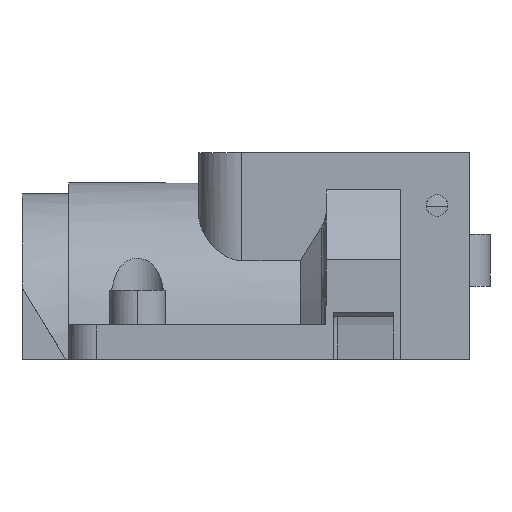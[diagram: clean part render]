
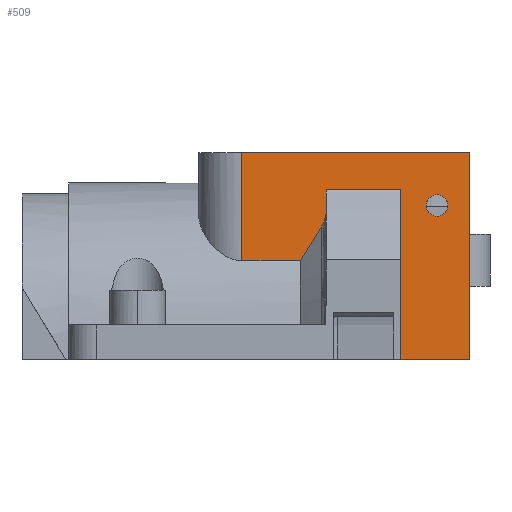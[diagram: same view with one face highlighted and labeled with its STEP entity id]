
A CAD part, left-side view. The second image highlights one B-rep face of the part: STEP entity #509.
In plain terms, the highlighted planar face has unit normal (-1, 0, 0).
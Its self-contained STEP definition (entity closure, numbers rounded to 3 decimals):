
#78 = ORIENTED_EDGE ( 'NONE', *, *, #3212, .F. ) ;
#104 = VECTOR ( 'NONE', #2061, 1000. ) ;
#117 = ORIENTED_EDGE ( 'NONE', *, *, #1319, .F. ) ;
#120 = PLANE ( 'NONE',  #3076 ) ;
#132 = EDGE_CURVE ( 'NONE', #1787, #3353, #4075, .T. ) ;
#133 = VERTEX_POINT ( 'NONE', #3978 ) ;
#153 = CARTESIAN_POINT ( 'NONE',  ( -1.701, -91.512, 24. ) ) ;
#194 = CARTESIAN_POINT ( 'NONE',  ( -1.701, -74.326, 15.364 ) ) ;
#240 = ORIENTED_EDGE ( 'NONE', *, *, #2635, .T. ) ;
#330 = CARTESIAN_POINT ( 'NONE',  ( -1.701, -74.912, 17.403 ) ) ;
#337 = EDGE_CURVE ( 'NONE', #2114, #3261, #1568, .T. ) ;
#416 = CARTESIAN_POINT ( 'NONE',  ( -1.701, -87.762, 19.1 ) ) ;
#435 = VECTOR ( 'NONE', #3085, 1000. ) ;
#509 = ADVANCED_FACE ( 'NONE', ( #2129, #3358 ), #120, .F. ) ;
#513 = DIRECTION ( 'NONE',  ( 0., 0., -1. ) ) ;
#518 = DIRECTION ( 'NONE',  ( -1., 0., 0. ) ) ;
#566 = CARTESIAN_POINT ( 'NONE',  ( -1.701, -140.791, 11.456 ) ) ;
#589 = ORIENTED_EDGE ( 'NONE', *, *, #4070, .T. ) ;
#623 = VECTOR ( 'NONE', #1621, 1000. ) ;
#653 = CARTESIAN_POINT ( 'NONE',  ( -1.701, -71.912, 11.456 ) ) ;
#670 = DIRECTION ( 'NONE',  ( 0., -1., 0. ) ) ;
#683 = CARTESIAN_POINT ( 'NONE',  ( -1.701, -74.815, 16.513 ) ) ;
#718 = AXIS2_PLACEMENT_3D ( 'NONE', #4498, #1291, #3183 ) ;
#729 = VERTEX_POINT ( 'NONE', #2561 ) ;
#758 = B_SPLINE_CURVE_WITH_KNOTS ( 'NONE', 3,
 ( #4517, #4134, #2857, #683, #2459, #1404, #2488, #330 ),
 .UNSPECIFIED., .F., .F.,
 ( 4, 2, 2, 4 ),
 ( 0., 0.001, 0.002, 0.003 ),
 .UNSPECIFIED. ) ;
#796 = CARTESIAN_POINT ( 'NONE',  ( -1.701, -65.108, 11.456 ) ) ;
#958 = CARTESIAN_POINT ( 'NONE',  ( -1.701, -74.912, -0.002 ) ) ;
#983 = VERTEX_POINT ( 'NONE', #3689 ) ;
#1005 = ORIENTED_EDGE ( 'NONE', *, *, #1116, .F. ) ;
#1035 = VECTOR ( 'NONE', #1040, 1000. ) ;
#1040 = DIRECTION ( 'NONE',  ( 0., 0., -1. ) ) ;
#1048 = CARTESIAN_POINT ( 'NONE',  ( -1.701, -87.762, 16.6 ) ) ;
#1101 = CARTESIAN_POINT ( 'NONE',  ( -1.701, -39.6, 19.672 ) ) ;
#1116 = EDGE_CURVE ( 'NONE', #4204, #3651, #2801, .T. ) ;
#1174 = CARTESIAN_POINT ( 'NONE',  ( -1.701, -87.762, 17.85 ) ) ;
#1186 = ORIENTED_EDGE ( 'NONE', *, *, #2235, .T. ) ;
#1224 = EDGE_CURVE ( 'NONE', #2095, #2208, #4456, .T. ) ;
#1265 = CIRCLE ( 'NONE', #718, 1.25 ) ;
#1291 = DIRECTION ( 'NONE',  ( -1., 0., 0. ) ) ;
#1319 = EDGE_CURVE ( 'NONE', #983, #2114, #2240, .T. ) ;
#1386 = CARTESIAN_POINT ( 'NONE',  ( -1.701, -91.512, 0. ) ) ;
#1404 = CARTESIAN_POINT ( 'NONE',  ( -1.701, -74.9, 17.043 ) ) ;
#1521 = DIRECTION ( 'NONE',  ( 1., 0., 0. ) ) ;
#1544 = VECTOR ( 'NONE', #4049, 1000. ) ;
#1568 = LINE ( 'NONE', #958, #2539 ) ;
#1597 = ORIENTED_EDGE ( 'NONE', *, *, #132, .F. ) ;
#1621 = DIRECTION ( 'NONE',  ( 0., 0., 1. ) ) ;
#1684 = EDGE_LOOP ( 'NONE', ( #1597, #78 ) ) ;
#1716 = CARTESIAN_POINT ( 'NONE',  ( -1.701, -71.912, 11.456 ) ) ;
#1752 = ORIENTED_EDGE ( 'NONE', *, *, #2950, .T. ) ;
#1786 = CARTESIAN_POINT ( 'NONE',  ( -1.701, -74.912, 19.672 ) ) ;
#1787 = VERTEX_POINT ( 'NONE', #416 ) ;
#1914 = CARTESIAN_POINT ( 'NONE',  ( -1.701, -72.659, 12.792 ) ) ;
#1991 = CARTESIAN_POINT ( 'NONE',  ( -1.701, -85.712, 24. ) ) ;
#2003 = LINE ( 'NONE', #2090, #1035 ) ;
#2051 = EDGE_CURVE ( 'NONE', #729, #3261, #758, .T. ) ;
#2061 = DIRECTION ( 'NONE',  ( 0., -1., 0. ) ) ;
#2090 = CARTESIAN_POINT ( 'NONE',  ( -1.701, -83.512, 28.2 ) ) ;
#2095 = VERTEX_POINT ( 'NONE', #653 ) ;
#2114 = VERTEX_POINT ( 'NONE', #1786 ) ;
#2129 = FACE_OUTER_BOUND ( 'NONE', #4257, .T. ) ;
#2208 = VERTEX_POINT ( 'NONE', #2977 ) ;
#2235 = EDGE_CURVE ( 'NONE', #133, #4450, #2793, .T. ) ;
#2240 = LINE ( 'NONE', #1101, #2688 ) ;
#2310 = CARTESIAN_POINT ( 'NONE',  ( -1.701, -73.472, 14.09 ) ) ;
#2368 = CARTESIAN_POINT ( 'NONE',  ( -1.701, -74.912, 17.403 ) ) ;
#2459 = CARTESIAN_POINT ( 'NONE',  ( -1.701, -74.851, 16.688 ) ) ;
#2460 = DIRECTION ( 'NONE',  ( 0., 0., -1. ) ) ;
#2488 = CARTESIAN_POINT ( 'NONE',  ( -1.701, -74.912, 17.224 ) ) ;
#2539 = VECTOR ( 'NONE', #2460, 1000. ) ;
#2561 = CARTESIAN_POINT ( 'NONE',  ( -1.701, -74.326, 15.364 ) ) ;
#2585 = B_SPLINE_CURVE_WITH_KNOTS ( 'NONE', 3,
 ( #1716, #1914, #2310, #194 ),
 .UNSPECIFIED., .F., .F.,
 ( 4, 4 ),
 ( 0.02, 0.025 ),
 .UNSPECIFIED. ) ;
#2586 = CARTESIAN_POINT ( 'NONE',  ( -1.701, -83.512, 28.2 ) ) ;
#2635 = EDGE_CURVE ( 'NONE', #983, #133, #2003, .T. ) ;
#2688 = VECTOR ( 'NONE', #3275, 1000. ) ;
#2690 = CARTESIAN_POINT ( 'NONE',  ( -1.701, -65.108, 24. ) ) ;
#2729 = CARTESIAN_POINT ( 'NONE',  ( -1.701, -91.512, 0. ) ) ;
#2793 = LINE ( 'NONE', #3525, #3451 ) ;
#2801 = LINE ( 'NONE', #1991, #104 ) ;
#2857 = CARTESIAN_POINT ( 'NONE',  ( -1.701, -74.671, 15.997 ) ) ;
#2950 = EDGE_CURVE ( 'NONE', #2095, #729, #2585, .T. ) ;
#2964 = AXIS2_PLACEMENT_3D ( 'NONE', #1174, #518, #2996 ) ;
#2977 = CARTESIAN_POINT ( 'NONE',  ( -1.701, -65.108, 11.456 ) ) ;
#2996 = DIRECTION ( 'NONE',  ( 0., 0., 1. ) ) ;
#3076 = AXIS2_PLACEMENT_3D ( 'NONE', #2586, #1521, #513 ) ;
#3085 = DIRECTION ( 'NONE',  ( 0., 1., 0. ) ) ;
#3155 = ORIENTED_EDGE ( 'NONE', *, *, #3712, .T. ) ;
#3183 = DIRECTION ( 'NONE',  ( 0., 0., 1. ) ) ;
#3212 = EDGE_CURVE ( 'NONE', #3353, #1787, #1265, .T. ) ;
#3261 = VERTEX_POINT ( 'NONE', #2368 ) ;
#3275 = DIRECTION ( 'NONE',  ( 0., 1., 0. ) ) ;
#3337 = LINE ( 'NONE', #2729, #623 ) ;
#3353 = VERTEX_POINT ( 'NONE', #1048 ) ;
#3358 = FACE_BOUND ( 'NONE', #1684, .T. ) ;
#3451 = VECTOR ( 'NONE', #670, 1000. ) ;
#3492 = LINE ( 'NONE', #796, #1544 ) ;
#3525 = CARTESIAN_POINT ( 'NONE',  ( -1.701, -83.512, 0. ) ) ;
#3651 = VERTEX_POINT ( 'NONE', #153 ) ;
#3661 = ORIENTED_EDGE ( 'NONE', *, *, #2051, .T. ) ;
#3689 = CARTESIAN_POINT ( 'NONE',  ( -1.701, -83.512, 19.672 ) ) ;
#3712 = EDGE_CURVE ( 'NONE', #4450, #3651, #3337, .T. ) ;
#3810 = ORIENTED_EDGE ( 'NONE', *, *, #337, .F. ) ;
#3859 = ORIENTED_EDGE ( 'NONE', *, *, #1224, .F. ) ;
#3978 = CARTESIAN_POINT ( 'NONE',  ( -1.701, -83.512, 0. ) ) ;
#4049 = DIRECTION ( 'NONE',  ( 0., 0., -1. ) ) ;
#4070 = EDGE_CURVE ( 'NONE', #4204, #2208, #3492, .T. ) ;
#4075 = CIRCLE ( 'NONE', #2964, 1.25 ) ;
#4134 = CARTESIAN_POINT ( 'NONE',  ( -1.701, -74.525, 15.661 ) ) ;
#4204 = VERTEX_POINT ( 'NONE', #2690 ) ;
#4257 = EDGE_LOOP ( 'NONE', ( #3155, #1005, #589, #3859, #1752, #3661, #3810, #117, #240, #1186 ) ) ;
#4450 = VERTEX_POINT ( 'NONE', #1386 ) ;
#4456 = LINE ( 'NONE', #566, #435 ) ;
#4498 = CARTESIAN_POINT ( 'NONE',  ( -1.701, -87.762, 17.85 ) ) ;
#4517 = CARTESIAN_POINT ( 'NONE',  ( -1.701, -74.326, 15.364 ) ) ;
